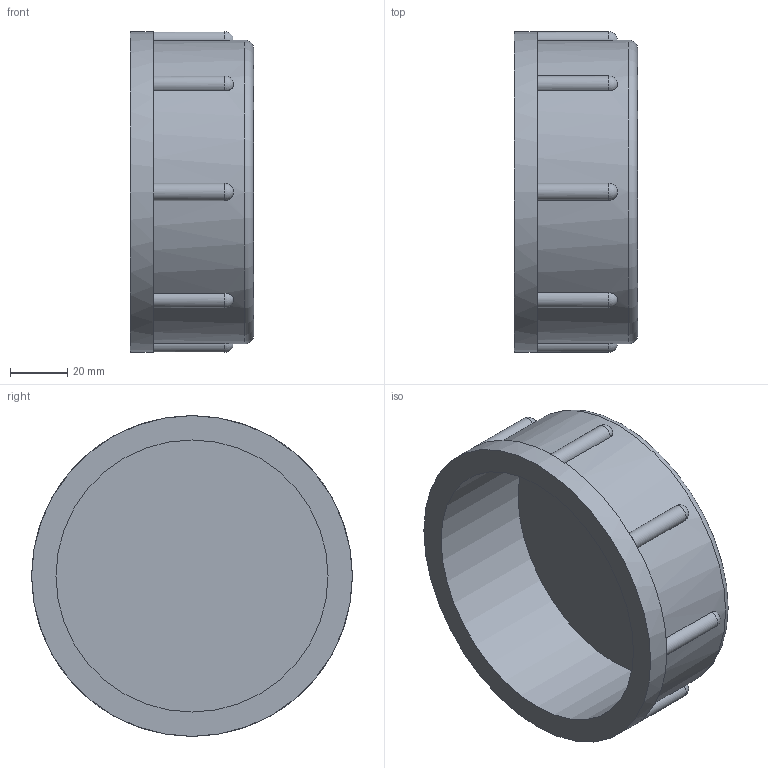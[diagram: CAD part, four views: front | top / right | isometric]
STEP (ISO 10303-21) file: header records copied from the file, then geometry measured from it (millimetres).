
FILE_DESCRIPTION(/* description */ (''),/* implementation_level */ '2;1');
FILE_NAME(/* name */ 'Z:\Geberit\Export\NewStep\240332.stp',/* time_stamp */ '2014-04-01T19:58:33+02:00',/* author */ ('Marco'),/* organization */ (''),/* preprocessor_version */ 'ST-DEVELOPER v15.2',/* originating_system */ 'Autodesk Inventor 2014',/* authorisation */ '');
FILE_SCHEMA (('AUTOMOTIVE_DESIGN { 1 0 10303 214 3 1 1 }'));
Length unit declared in the file: millimetre
Products named in the file (1): 240332
Bounding box: 43 x 112 x 112 mm (x, y, z)
Volume: 120785.3 mm3; surface area: 45803.2 mm2
Topology: 1 solids, 1 shells, 31 faces, 89 edges, 53 vertices
Faces by surface type: cylinder 11, plane 11, sphere 8, torus 1
Full cylindrical faces by diameter (mm): 95 x1, 106 x1, 112 x1
Entity records: 1152 total; most frequent: CARTESIAN_POINT 338, DIRECTION 170, ORIENTED_EDGE 154, EDGE_CURVE 77, AXIS2_PLACEMENT_3D 77, VERTEX_POINT 53, CIRCLE 45, EDGE_LOOP 36
